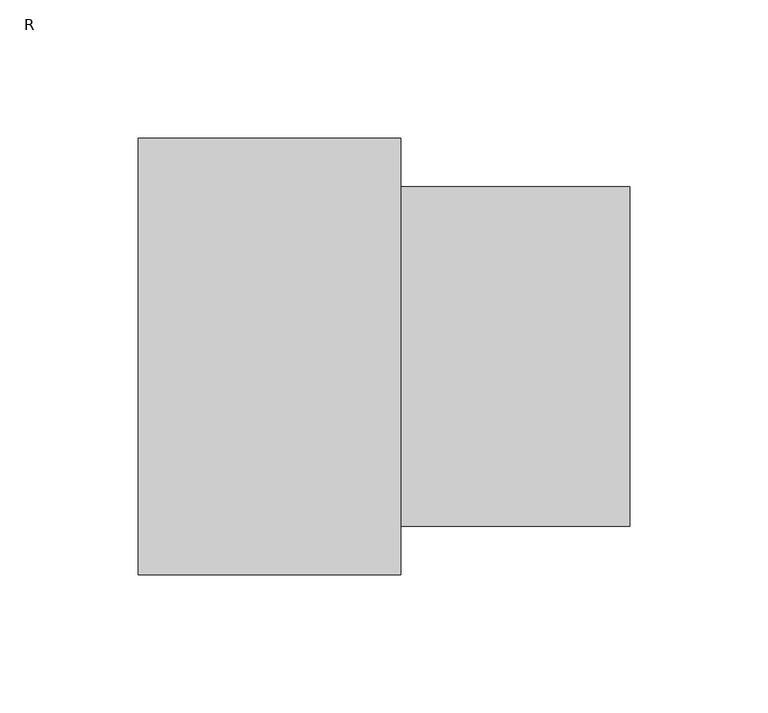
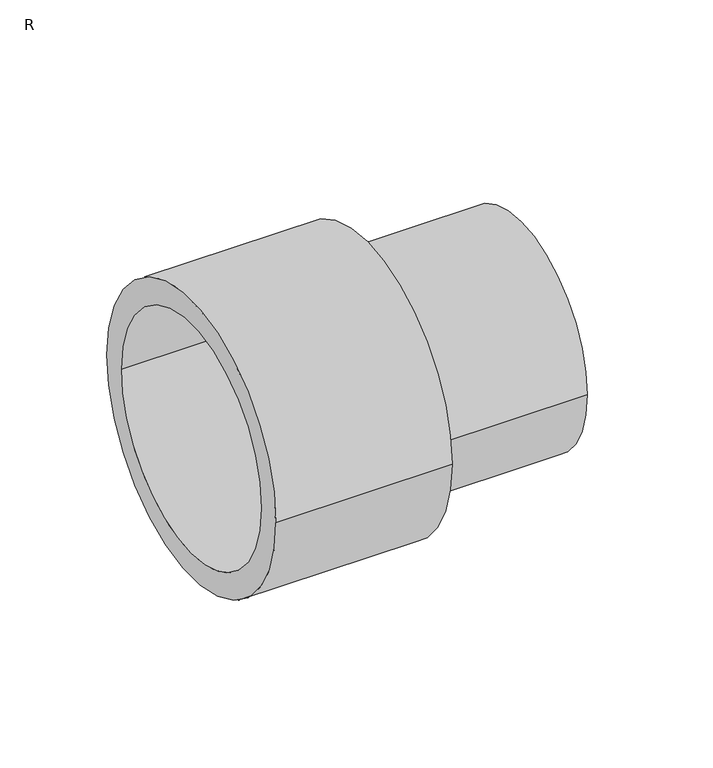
"""IFC4 building model written with IfcOpenShell, lengths in millimetres: pipe fitting geometry, FUSAPEX reducer for T-Piece : R."""

from ifc_helpers import new_model, si_unit, frame, origin, place, context, project, spatial, polyline, circle_curve, source, transform, mapped, element, save
from ifc_brep_helpers import plane_surface, cylinder_surface, revolved_surface, advanced_brep


def r_e99f7dad(model_context):
    return source(origin(), model_context, "Body", "AdvancedBrep", [
        advanced_brep(
        [(-95.0, 65.4, 0.0), (-95.0, -65.4, 0.0), (-13.5, -65.4, 0.0), (-13.5, 65.4, 0.0), (0.0, 79.0, 0.0), (0.0, -79.0, 0.0), (-95.0, -79.0, 0.0), (-95.0, 79.0, 0.0), (83.0, 61.5, 0.0), (83.0, -61.5, 0.0), (0.0, -61.5, 0.0), (0.0, 61.5, 0.0), (-13.5, 51.1, 0.0), (-13.5, -51.1, 0.0), (83.0, -51.1, 0.0), (83.0, 51.1, 0.0)],
        [
            (0, 1, circle_curve(frame((-95.0, 0.0, 0.0), z_axis=(-1.0, 0.0, 0.0), x_axis=(0.0, -1.0, 0.0)), 65.4)),
            (1, 2),
            (2, 3, circle_curve(frame((-13.5, 0.0, 0.0), z_axis=(1.0, 0.0, 0.0), x_axis=(0.0, -1.0, 0.0)), 65.4)),
            (3, 0),
            (4, 5, circle_curve(frame((0.0, 0.0, 0.0), z_axis=(-1.0, 0.0, 0.0), x_axis=(0.0, -1.0, 0.0)), 79.0)),
            (5, 6),
            (6, 7, circle_curve(frame((-95.0, 0.0, 0.0), z_axis=(1.0, 0.0, 0.0), x_axis=(0.0, -1.0, 0.0)), 79.0)),
            (7, 4),
            (8, 9, circle_curve(frame((83.0, 0.0, 0.0), z_axis=(-1.0, 0.0, 0.0), x_axis=(0.0, -1.0, 0.0)), 61.5)),
            (9, 10),
            (10, 11, circle_curve(frame((0.0, 0.0, 0.0), z_axis=(1.0, 0.0, 0.0), x_axis=(0.0, -1.0, 0.0)), 61.5)),
            (11, 8),
            (12, 13, circle_curve(frame((-13.5, 0.0, 0.0), z_axis=(-1.0, 0.0, 0.0), x_axis=(0.0, -1.0, 0.0)), 51.1)),
            (13, 14),
            (14, 15, circle_curve(frame((83.0, 0.0, 0.0), z_axis=(1.0, 0.0, 0.0), x_axis=(0.0, -1.0, 0.0)), 51.1)),
            (15, 12),
            (1, 0, circle_curve(frame((-95.0, 0.0, 0.0), z_axis=(-1.0, 0.0, 0.0), x_axis=(0.0, 1.0, 0.0)), 65.4)),
            (3, 2, circle_curve(frame((-13.5, 0.0, 0.0), z_axis=(1.0, 0.0, 0.0), x_axis=(0.0, 1.0, 0.0)), 65.4)),
            (6, 7, circle_curve(frame((-95.0, 0.0, 0.0), z_axis=(-1.0, 0.0, 0.0), x_axis=(0.0, 1.0, 0.0)), 79.0)),
            (5, 4, circle_curve(frame((0.0, 0.0, 0.0), z_axis=(-1.0, 0.0, 0.0), x_axis=(0.0, 1.0, 0.0)), 79.0)),
            (10, 11, circle_curve(frame((0.0, 0.0, 0.0), z_axis=(-1.0, 0.0, 0.0), x_axis=(0.0, 1.0, 0.0)), 61.5)),
            (9, 8, circle_curve(frame((83.0, 0.0, 0.0), z_axis=(-1.0, 0.0, 0.0), x_axis=(0.0, 1.0, 0.0)), 61.5)),
            (14, 15, circle_curve(frame((83.0, 0.0, 0.0), z_axis=(-1.0, 0.0, 0.0), x_axis=(0.0, 1.0, 0.0)), 51.1)),
            (13, 12, circle_curve(frame((-13.5, 0.0, 0.0), z_axis=(-1.0, 0.0, 0.0), x_axis=(0.0, 1.0, 0.0)), 51.1)),
        ],
        [
            revolved_surface(polyline([(-13.5, -65.4, 0.0), (-95.0, -65.4, 0.0)]), (0.0, 0.0, 0.0), (1.0, 0.0, 0.0)),
            cylinder_surface(frame((0.0, 0.0, 0.0), z_axis=(1.0, 0.0, 0.0), x_axis=(0.0, -1.0, 0.0)), 79.0),
            cylinder_surface(frame((0.0, 0.0, 0.0), z_axis=(1.0, 0.0, 0.0), x_axis=(0.0, -1.0, 0.0)), 61.5),
            revolved_surface(polyline([(83.0, -51.1, 0.0), (-13.5, -51.1, 0.0)]), (0.0, 0.0, 0.0), (1.0, 0.0, 0.0)),
            revolved_surface(polyline([(-13.5, 65.4, 0.0), (-95.0, 65.4, 0.0)]), (0.0, 0.0, 0.0), (1.0, 0.0, 0.0)),
            plane_surface(frame((-95.0, 0.0, 0.0), z_axis=(-1.0, 0.0, 0.0), x_axis=(0.0, 1.0, 0.0))),
            cylinder_surface(frame((0.0, 0.0, 0.0), z_axis=(1.0, 0.0, 0.0), x_axis=(0.0, 1.0, 0.0)), 79.0),
            plane_surface(frame((0.0, 0.0, 0.0), z_axis=(1.0, 0.0, 0.0), x_axis=(0.0, 1.0, 0.0))),
            cylinder_surface(frame((0.0, 0.0, 0.0), z_axis=(1.0, 0.0, 0.0), x_axis=(0.0, 1.0, 0.0)), 61.5),
            plane_surface(frame((83.0, 0.0, 0.0), z_axis=(1.0, 0.0, 0.0), x_axis=(0.0, 1.0, 0.0))),
            revolved_surface(polyline([(83.0, 51.1, 0.0), (-13.5, 51.1, 0.0)]), (0.0, 0.0, 0.0), (1.0, 0.0, 0.0)),
            plane_surface(frame((-13.5, 0.0, 0.0), z_axis=(-1.0, 0.0, 0.0), x_axis=(0.0, 1.0, 0.0))),
        ],
        [
            (0, [[1, 2, 3, 4]]),
            (1, [[5, 6, 7, 8]]),
            (2, [[9, 10, 11, 12]]),
            (3, [[13, 14, 15, 16]]),
            (4, [[17, -4, 18, -2]]),
            (5, [[19, -7], [-17, -1]]),
            (6, [[20, -8, -19, -6]]),
            (7, [[-20, -5], [21, -11]]),
            (8, [[22, -12, -21, -10]]),
            (9, [[-22, -9], [23, -15]]),
            (10, [[24, -16, -23, -14]]),
            (11, [[-18, -3], [-24, -13]]),
        ],
    ),
    ])


if __name__ == "__main__":
    model = new_model("IFC4")
    model_context = context("Model", 3, world=origin())
    ifc_project = project(units=[si_unit("LENGTHUNIT", "METRE", prefix="MILLI")], contexts=[model_context])
    site = spatial("IfcSite", under=ifc_project)
    building = spatial("IfcBuilding", under=site)
    placement = place(None, origin())
    r_shape = r_e99f7dad(model_context)
    element("IfcPipeFitting", 1, ObjectType="FUSAPEX reducer for T-Piece : R", at=placement, inside=building, context=model_context, shape_type="MappedRepresentation", body=[
        mapped(r_shape, transform((0.0, 0.0, 0.0), x_axis=(1.0, 0.0, 0.0), y_axis=(0.0, 1.0, 0.0), z_axis=(0.0, 0.0, 1.0))),
    ])
    save(model, "model.ifc")
